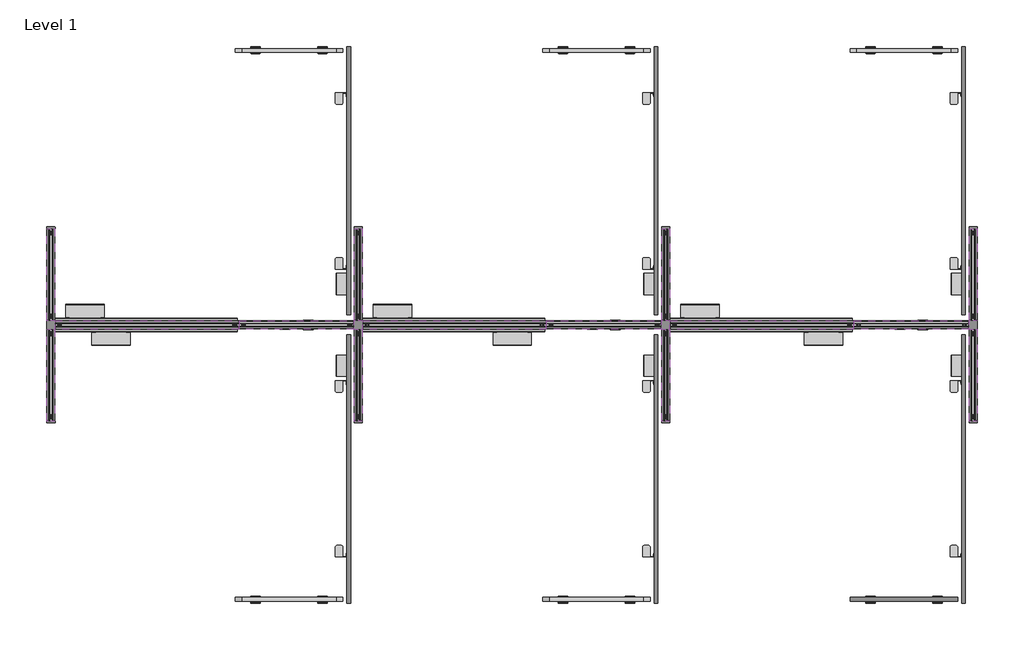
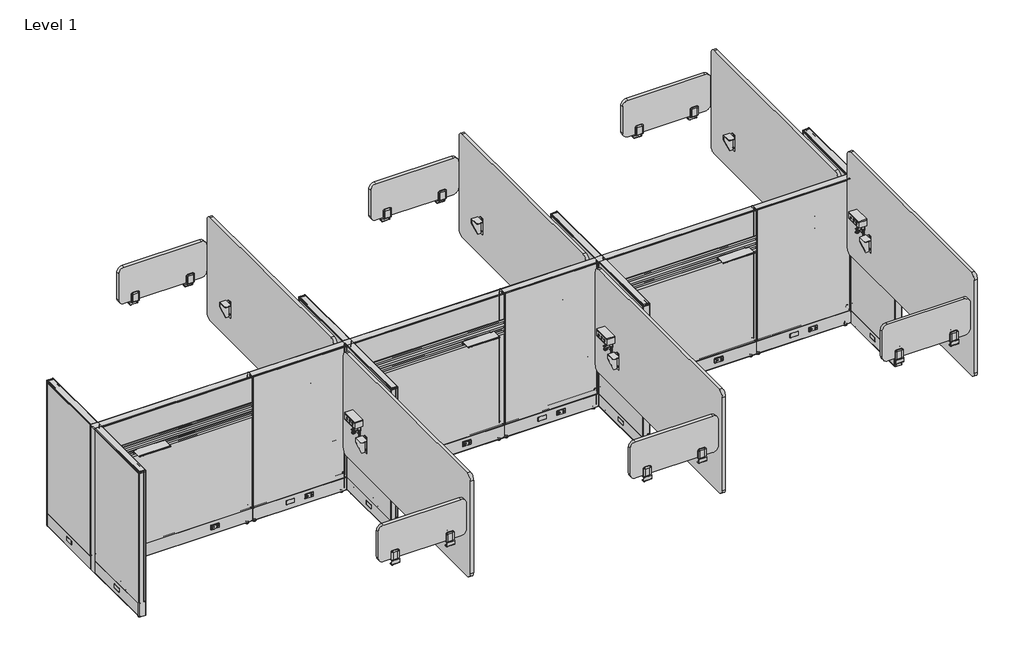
# One storey, incomplete: 82 furniture elements.
"""IFC4 building model written with IfcOpenShell, lengths in millimetres."""

from ifc_helpers import new_model, si_unit, origin, place, context, project, spatial, transform, mapped, element, save
from components import furniture_2e87ed6a, furniture_91dbd727, furniture_34fdd63b, furniture_ea1fc38d, furniture_3052da3d, furniture_b311e014, furniture_87b25547, furniture_98e4637c, furniture_94d4257f, furniture_e1f2ad61, furniture_f681380f, furniture_bea5105c, furniture_b77347cf, furniture_06a7f967, furniture_a22443c0, furniture_8bf96b06, furniture_95dbc46c, furniture_5fd61c0f, furniture_296ab29a, furniture_a4b0deac, furniture_41d6ddbd, furniture_5a4e5a92, furniture_285fecfc, circuit_1_60441ec7, circuit_1_12633536, hon_universal_screens_side_mount_13h_fabric_b37ea31b, hon_universal_screens_side_mount_13h_fabric_62fbe6fb, hon_workwall_accessories_small_shelf_hon_workwall_bf0bc41e, hon_workwall_accessories_small_shelf_hon_workwall_5849d4b8

model = new_model("IFC4")

# Units and contexts
model_context = context("Model", 3, world=origin())
ifc_project = project(units=[si_unit("LENGTHUNIT", "METRE", prefix="MILLI")], contexts=[model_context])

# Site, building, storey
site = spatial("IfcSite", under=ifc_project)
building = spatial("IfcBuilding", under=site)
storey = spatial("IfcBuildingStorey", under=building, Name="Level 1", Elevation=0.0)

# Furniture
placement = place(None, origin())
furniture_shape = furniture_2e87ed6a(model_context)
furniture_2_shape = furniture_91dbd727(model_context)
element("IfcFurniture", 1, ObjectType="HON - Voi - Dean Power Module Clamp : Dean Power Module Clamp", at=placement, inside=storey, context=model_context, shape_type="MappedRepresentation", body=[
    mapped(furniture_shape, transform((-1312.6176197, -276.8890381, 0.0), x_axis=(0.0, -1.0, 0.0), y_axis=(1.0, 0.0, 0.0), z_axis=(0.0, 0.0, 1.0))),
    mapped(furniture_2_shape, transform((-1312.6176197, -276.8890381, 0.0), x_axis=(0.0, -1.0, 0.0), y_axis=(1.0, 0.0, 0.0), z_axis=(0.0, 0.0, 1.0))),
])
element("IfcFurniture", 2, ObjectType="HON - Voi - Dean Power Module Clamp : Dean Power Module Clamp", at=placement, inside=storey, context=model_context, shape_type="MappedRepresentation", body=[
    mapped(furniture_shape, transform((725.7323803, -276.8890381, 0.0), x_axis=(0.0, -1.0, 0.0), y_axis=(1.0, 0.0, 0.0), z_axis=(0.0, 0.0, 1.0))),
    mapped(furniture_2_shape, transform((725.7323803, -276.8890381, 0.0), x_axis=(0.0, -1.0, 0.0), y_axis=(1.0, 0.0, 0.0), z_axis=(0.0, 0.0, 1.0))),
])
element("IfcFurniture", 3, ObjectType="HON - Voi - Dean Power Module Clamp : Dean Power Module Clamp", at=placement, inside=storey, context=model_context, shape_type="MappedRepresentation", body=[
    mapped(furniture_shape, transform((2764.0823803, -276.8890381, 288.8706443), x_axis=(0.0, -1.0, 0.0), y_axis=(1.0, 0.0, 0.0), z_axis=(0.0, 0.0, 1.0))),
    mapped(furniture_2_shape, transform((2764.0823803, -276.8890381, 288.8706443), x_axis=(0.0, -1.0, 0.0), y_axis=(1.0, 0.0, 0.0), z_axis=(0.0, 0.0, 1.0))),
])
furniture_3_shape = furniture_34fdd63b(model_context)
element("IfcFurniture", 4, ObjectType="HON - Universal Screens - A B - 34H - Fabric : 34\"H x 70\"W", at=placement, inside=storey, context=model_context, shape_type="MappedRepresentation", body=[
    mapped(furniture_3_shape, transform((-1333.6519947, -71.3031581, 0.0), x_axis=(0.0, -1.0, 0.0), y_axis=(1.0, 0.0, 0.0), z_axis=(0.0, 0.0, 1.0))),
])
element("IfcFurniture", 5, ObjectType="HON - Universal Screens - A B - 34H - Fabric : 34\"H x 70\"W", at=placement, inside=storey, context=model_context, shape_type="MappedRepresentation", body=[
    mapped(furniture_3_shape, transform((704.6980053, -71.3031581, 0.0), x_axis=(0.0, -1.0, 0.0), y_axis=(1.0, 0.0, 0.0), z_axis=(0.0, 0.0, 1.0))),
])
element("IfcFurniture", 6, ObjectType="HON - Universal Screens - A B - 34H - Fabric : 34\"H x 70\"W", at=placement, inside=storey, context=model_context, shape_type="MappedRepresentation", body=[
    mapped(furniture_3_shape, transform((2743.0480053, -71.3031581, 288.8706443), x_axis=(0.0, -1.0, 0.0), y_axis=(1.0, 0.0, 0.0), z_axis=(0.0, 0.0, 1.0))),
])
furniture_4_shape = furniture_ea1fc38d(model_context)
furniture_5_shape = furniture_3052da3d(model_context)
element("IfcFurniture", 7, ObjectType="HON - Voi - Dean Power Module Clamp : Dean Power Module Clamp", at=placement, inside=storey, context=model_context, shape_type="MappedRepresentation", body=[
    mapped(furniture_4_shape, transform((-1312.6176197, 264.9827881, 3.175), x_axis=(0.0, 1.0, 0.0), y_axis=(-1.0, 0.0, 0.0), z_axis=(0.0, 0.0, 1.0))),
    mapped(furniture_5_shape, transform((-1312.6176197, 264.9827881, 3.175), x_axis=(0.0, 1.0, 0.0), y_axis=(-1.0, 0.0, 0.0), z_axis=(0.0, 0.0, 1.0))),
])
element("IfcFurniture", 8, ObjectType="HON - Voi - Dean Power Module Clamp : Dean Power Module Clamp", at=placement, inside=storey, context=model_context, shape_type="MappedRepresentation", body=[
    mapped(furniture_4_shape, transform((725.7323803, 264.9827881, 3.175), x_axis=(0.0, 1.0, 0.0), y_axis=(-1.0, 0.0, 0.0), z_axis=(0.0, 0.0, 1.0))),
    mapped(furniture_5_shape, transform((725.7323803, 264.9827881, 3.175), x_axis=(0.0, 1.0, 0.0), y_axis=(-1.0, 0.0, 0.0), z_axis=(0.0, 0.0, 1.0))),
])
element("IfcFurniture", 9, ObjectType="HON - Voi - Dean Power Module Clamp : Dean Power Module Clamp", at=placement, inside=storey, context=model_context, shape_type="MappedRepresentation", body=[
    mapped(furniture_4_shape, transform((2764.0823803, 264.9827881, 3.175), x_axis=(0.0, 1.0, 0.0), y_axis=(-1.0, 0.0, 0.0), z_axis=(0.0, 0.0, 1.0))),
    mapped(furniture_5_shape, transform((2764.0823803, 264.9827881, 3.175), x_axis=(0.0, 1.0, 0.0), y_axis=(-1.0, 0.0, 0.0), z_axis=(0.0, 0.0, 1.0))),
])
furniture_6_shape = furniture_b311e014(model_context)
element("IfcFurniture", 10, ObjectType="HON - Universal Screens - A B - 34H - Fabric : 34\"H x 70\"W", at=placement, inside=storey, context=model_context, shape_type="MappedRepresentation", body=[
    mapped(furniture_6_shape, transform((-1333.6519947, 59.3969081, 0.0), x_axis=(0.0, 1.0, 0.0), y_axis=(-1.0, 0.0, 0.0), z_axis=(0.0, 0.0, 1.0))),
])
element("IfcFurniture", 11, ObjectType="HON - Universal Screens - A B - 34H - Fabric : 34\"H x 70\"W", at=placement, inside=storey, context=model_context, shape_type="MappedRepresentation", body=[
    mapped(furniture_6_shape, transform((704.6980053, 59.3969081, 0.0), x_axis=(0.0, 1.0, 0.0), y_axis=(-1.0, 0.0, 0.0), z_axis=(0.0, 0.0, 1.0))),
])
element("IfcFurniture", 12, ObjectType="HON - Universal Screens - A B - 34H - Fabric : 34\"H x 70\"W", at=placement, inside=storey, context=model_context, shape_type="MappedRepresentation", body=[
    mapped(furniture_6_shape, transform((2743.0480053, 59.3969081, 0.0), x_axis=(0.0, 1.0, 0.0), y_axis=(-1.0, 0.0, 0.0), z_axis=(0.0, 0.0, 1.0))),
])
furniture_7_shape = furniture_87b25547(model_context)
furniture_8_shape = furniture_98e4637c(model_context)
element("IfcFurniture", 13, ObjectType="HON - Accelerate - Panel - Tackable Acoustical - 50H : 24\"W", at=placement, inside=storey, context=model_context, shape_type="MappedRepresentation", body=[
    mapped(furniture_7_shape, transform((-3243.4575155, -644.0131022, 0.0), x_axis=(0.0, 1.0, 0.0), y_axis=(-1.0, 0.0, 0.0), z_axis=(0.0, 0.0, 1.0))),
    mapped(furniture_8_shape, transform((-3243.4575155, -644.0131022, 0.0), x_axis=(0.0, 1.0, 0.0), y_axis=(-1.0, 0.0, 0.0), z_axis=(0.0, 0.0, 1.0))),
])
element("IfcFurniture", 14, ObjectType="HON - Accelerate - Panel - Tackable Acoustical - 50H : 24\"W", at=placement, inside=storey, context=model_context, shape_type="MappedRepresentation", body=[
    mapped(furniture_7_shape, transform((-1204.8622343, -644.1030252, 0.0), x_axis=(0.0, 1.0, 0.0), y_axis=(-1.0, 0.0, 0.0), z_axis=(0.0, 0.0, 1.0))),
    mapped(furniture_8_shape, transform((-1204.8622343, -644.1030252, 0.0), x_axis=(0.0, 1.0, 0.0), y_axis=(-1.0, 0.0, 0.0), z_axis=(0.0, 0.0, 1.0))),
])
element("IfcFurniture", 15, ObjectType="HON - Accelerate - Panel - Tackable Acoustical - 50H : 24\"W", at=placement, inside=storey, context=model_context, shape_type="MappedRepresentation", body=[
    mapped(furniture_7_shape, transform((833.4877657, -644.1030252, 0.0), x_axis=(0.0, 1.0, 0.0), y_axis=(-1.0, 0.0, 0.0), z_axis=(0.0, 0.0, 1.0))),
    mapped(furniture_8_shape, transform((833.4877657, -644.1030252, 0.0), x_axis=(0.0, 1.0, 0.0), y_axis=(-1.0, 0.0, 0.0), z_axis=(0.0, 0.0, 1.0))),
])
element("IfcFurniture", 16, ObjectType="HON - Accelerate - Panel - Tackable Acoustical - 50H : 24\"W", at=placement, inside=storey, context=model_context, shape_type="MappedRepresentation", body=[
    mapped(furniture_7_shape, transform((2871.8377657, -644.1030252, 0.0), x_axis=(0.0, 1.0, 0.0), y_axis=(-1.0, 0.0, 0.0), z_axis=(0.0, 0.0, 1.0))),
    mapped(furniture_8_shape, transform((2871.8377657, -644.1030252, 0.0), x_axis=(0.0, 1.0, 0.0), y_axis=(-1.0, 0.0, 0.0), z_axis=(0.0, 0.0, 1.0))),
])
furniture_9_shape = furniture_94d4257f(model_context)
element("IfcFurniture", 17, ObjectType="HON - Accelerate - Top Cap : 24\"W", at=placement, inside=storey, context=model_context, shape_type="MappedRepresentation", body=[
    mapped(furniture_9_shape, transform((-3243.4575155, -339.2131022, 1247.2841202), x_axis=(0.0, 1.0, 0.0), y_axis=(-1.0, 0.0, 0.0), z_axis=(0.0, 0.0, 1.0))),
])
element("IfcFurniture", 18, ObjectType="HON - Accelerate - Top Cap : 24\"W", at=placement, inside=storey, context=model_context, shape_type="MappedRepresentation", body=[
    mapped(furniture_9_shape, transform((-1204.8622343, -339.3030252, 1247.2841202), x_axis=(0.0, 1.0, 0.0), y_axis=(-1.0, 0.0, 0.0), z_axis=(0.0, 0.0, 1.0))),
])
element("IfcFurniture", 19, ObjectType="HON - Accelerate - Top Cap : 24\"W", at=placement, inside=storey, context=model_context, shape_type="MappedRepresentation", body=[
    mapped(furniture_9_shape, transform((833.4877657, -339.3030252, 1247.2841202), x_axis=(0.0, 1.0, 0.0), y_axis=(-1.0, 0.0, 0.0), z_axis=(0.0, 0.0, 1.0))),
])
element("IfcFurniture", 20, ObjectType="HON - Accelerate - Top Cap : 24\"W", at=placement, inside=storey, context=model_context, shape_type="MappedRepresentation", body=[
    mapped(furniture_9_shape, transform((2871.8377657, -339.3030252, 1247.2841202), x_axis=(0.0, 1.0, 0.0), y_axis=(-1.0, 0.0, 0.0), z_axis=(0.0, 0.0, 1.0))),
])
furniture_10_shape = furniture_e1f2ad61(model_context)
furniture_11_shape = furniture_f681380f(model_context)
element("IfcFurniture", 21, ObjectType="HON - Accelerate - Panel - Tackable Acoustical - 50H : 24\"W", at=placement, inside=storey, context=model_context, shape_type="MappedRepresentation", body=[
    mapped(furniture_10_shape, transform((-3243.4575155, 632.1068522, 0.0), x_axis=(0.0, -1.0, 0.0), y_axis=(1.0, 0.0, 0.0), z_axis=(0.0, 0.0, 1.0))),
    mapped(furniture_11_shape, transform((-3243.4575155, 632.1068522, 0.0), x_axis=(0.0, -1.0, 0.0), y_axis=(1.0, 0.0, 0.0), z_axis=(0.0, 0.0, 1.0))),
])
element("IfcFurniture", 22, ObjectType="HON - Accelerate - Panel - Tackable Acoustical - 50H : 24\"W", at=placement, inside=storey, context=model_context, shape_type="MappedRepresentation", body=[
    mapped(furniture_10_shape, transform((-1204.8622343, 632.1967752, 0.0), x_axis=(0.0, -1.0, 0.0), y_axis=(1.0, 0.0, 0.0), z_axis=(0.0, 0.0, 1.0))),
    mapped(furniture_11_shape, transform((-1204.8622343, 632.1967752, 0.0), x_axis=(0.0, -1.0, 0.0), y_axis=(1.0, 0.0, 0.0), z_axis=(0.0, 0.0, 1.0))),
])
element("IfcFurniture", 23, ObjectType="HON - Accelerate - Panel - Tackable Acoustical - 50H : 24\"W", at=placement, inside=storey, context=model_context, shape_type="MappedRepresentation", body=[
    mapped(furniture_10_shape, transform((833.4877657, 632.1967752, 0.0), x_axis=(0.0, -1.0, 0.0), y_axis=(1.0, 0.0, 0.0), z_axis=(0.0, 0.0, 1.0))),
    mapped(furniture_11_shape, transform((833.4877657, 632.1967752, 0.0), x_axis=(0.0, -1.0, 0.0), y_axis=(1.0, 0.0, 0.0), z_axis=(0.0, 0.0, 1.0))),
])
element("IfcFurniture", 24, ObjectType="HON - Accelerate - Panel - Tackable Acoustical - 50H : 24\"W", at=placement, inside=storey, context=model_context, shape_type="MappedRepresentation", body=[
    mapped(furniture_10_shape, transform((2871.8377657, 632.1967752, 0.0), x_axis=(0.0, -1.0, 0.0), y_axis=(1.0, 0.0, 0.0), z_axis=(0.0, 0.0, 1.0))),
    mapped(furniture_11_shape, transform((2871.8377657, 632.1967752, 0.0), x_axis=(0.0, -1.0, 0.0), y_axis=(1.0, 0.0, 0.0), z_axis=(0.0, 0.0, 1.0))),
])
furniture_12_shape = furniture_bea5105c(model_context)
element("IfcFurniture", 25, ObjectType="HON - Accelerate - Top Cap : 24\"W", at=placement, inside=storey, context=model_context, shape_type="MappedRepresentation", body=[
    mapped(furniture_12_shape, transform((-3243.4575155, 327.3068522, 1247.2841202), x_axis=(0.0, -1.0, 0.0), y_axis=(1.0, 0.0, 0.0), z_axis=(0.0, 0.0, 1.0))),
])
element("IfcFurniture", 26, ObjectType="HON - Accelerate - Top Cap : 24\"W", at=placement, inside=storey, context=model_context, shape_type="MappedRepresentation", body=[
    mapped(furniture_12_shape, transform((-1204.8622343, 327.3967752, 1247.2841202), x_axis=(0.0, -1.0, 0.0), y_axis=(1.0, 0.0, 0.0), z_axis=(0.0, 0.0, 1.0))),
])
element("IfcFurniture", 27, ObjectType="HON - Accelerate - Top Cap : 24\"W", at=placement, inside=storey, context=model_context, shape_type="MappedRepresentation", body=[
    mapped(furniture_12_shape, transform((833.4877657, 327.3967752, 1247.2841202), x_axis=(0.0, -1.0, 0.0), y_axis=(1.0, 0.0, 0.0), z_axis=(0.0, 0.0, 1.0))),
])
element("IfcFurniture", 28, ObjectType="HON - Accelerate - Top Cap : 24\"W", at=placement, inside=storey, context=model_context, shape_type="MappedRepresentation", body=[
    mapped(furniture_12_shape, transform((2871.8377657, 327.3967752, 1247.2841202), x_axis=(0.0, -1.0, 0.0), y_axis=(1.0, 0.0, 0.0), z_axis=(0.0, 0.0, 1.0))),
])
furniture_13_shape = furniture_b77347cf(model_context)
element("IfcFurniture", 29, ObjectType="HON - Accelerate - Panel - Tackable Acoustical - 50H : 30\"W", at=placement, inside=storey, context=model_context, shape_type="MappedRepresentation", body=[
    mapped(furniture_13_shape, transform((-2023.2444934, -34.7109478, 0.0), x_axis=(1.0, 0.0, 0.0), y_axis=(0.0, 1.0, 0.0), z_axis=(0.0, 0.0, 1.0))),
    mapped(furniture_8_shape, transform((-2023.2444934, -34.7109478, 0.0), x_axis=(1.0, 0.0, 0.0), y_axis=(0.0, 1.0, 0.0), z_axis=(0.0, 0.0, 1.0))),
])
element("IfcFurniture", 30, ObjectType="HON - Accelerate - Panel - Tackable Acoustical - 50H : 30\"W", at=placement, inside=storey, context=model_context, shape_type="MappedRepresentation", body=[
    mapped(furniture_13_shape, transform((15.1055066, -34.7109478, 0.0), x_axis=(1.0, 0.0, 0.0), y_axis=(0.0, 1.0, 0.0), z_axis=(0.0, 0.0, 1.0))),
    mapped(furniture_8_shape, transform((15.1055066, -34.7109478, 0.0), x_axis=(1.0, 0.0, 0.0), y_axis=(0.0, 1.0, 0.0), z_axis=(0.0, 0.0, 1.0))),
])
element("IfcFurniture", 31, ObjectType="HON - Accelerate - Panel - Tackable Acoustical - 50H : 30\"W", at=placement, inside=storey, context=model_context, shape_type="MappedRepresentation", body=[
    mapped(furniture_13_shape, transform((2053.4555066, -34.7109478, 0.0), x_axis=(1.0, 0.0, 0.0), y_axis=(0.0, 1.0, 0.0), z_axis=(0.0, 0.0, 1.0))),
    mapped(furniture_8_shape, transform((2053.4555066, -34.7109478, 0.0), x_axis=(1.0, 0.0, 0.0), y_axis=(0.0, 1.0, 0.0), z_axis=(0.0, 0.0, 1.0))),
])
furniture_14_shape = furniture_06a7f967(model_context)
element("IfcFurniture", 32, ObjectType="HON - Accelerate - Top Cap : 30\"W", at=placement, inside=storey, context=model_context, shape_type="MappedRepresentation", body=[
    mapped(furniture_14_shape, transform((-1643.130314, -34.7109478, 1247.2841202), x_axis=(1.0, 0.0, 0.0), y_axis=(0.0, 1.0, 0.0), z_axis=(0.0, 0.0, 1.0))),
])
element("IfcFurniture", 33, ObjectType="HON - Accelerate - Top Cap : 30\"W", at=placement, inside=storey, context=model_context, shape_type="MappedRepresentation", body=[
    mapped(furniture_14_shape, transform((395.219686, -34.7109478, 1247.2841202), x_axis=(1.0, 0.0, 0.0), y_axis=(0.0, 1.0, 0.0), z_axis=(0.0, 0.0, 1.0))),
])
element("IfcFurniture", 34, ObjectType="HON - Accelerate - Top Cap : 30\"W", at=placement, inside=storey, context=model_context, shape_type="MappedRepresentation", body=[
    mapped(furniture_14_shape, transform((2433.569686, -34.7109478, 1247.2841202), x_axis=(1.0, 0.0, 0.0), y_axis=(0.0, 1.0, 0.0), z_axis=(0.0, 0.0, 1.0))),
])
furniture_15_shape = furniture_a22443c0(model_context)
element("IfcFurniture", 35, ObjectType="HON - Abound - Systems Paper Management Support Bars : 48\" W", at=placement, inside=storey, context=model_context, shape_type="MappedRepresentation", body=[
    mapped(furniture_15_shape, transform((-2638.5280823, -34.6888709, -25.4), x_axis=(1.0, 0.0, 0.0), y_axis=(0.0, 1.0, 0.0), z_axis=(0.0, 0.0, 1.0))),
])
element("IfcFurniture", 36, ObjectType="HON - Abound - Systems Paper Management Support Bars : 48\" W", at=placement, inside=storey, context=model_context, shape_type="MappedRepresentation", body=[
    mapped(furniture_15_shape, transform((-600.1780823, -34.6888709, -25.4), x_axis=(1.0, 0.0, 0.0), y_axis=(0.0, 1.0, 0.0), z_axis=(0.0, 0.0, 1.0))),
])
element("IfcFurniture", 37, ObjectType="HON - Abound - Systems Paper Management Support Bars : 48\" W", at=placement, inside=storey, context=model_context, shape_type="MappedRepresentation", body=[
    mapped(furniture_15_shape, transform((1438.1719177, -34.6888709, -25.4), x_axis=(1.0, 0.0, 0.0), y_axis=(0.0, 1.0, 0.0), z_axis=(0.0, 0.0, 1.0))),
])
furniture_16_shape = furniture_8bf96b06(model_context)
element("IfcFurniture", 38, ObjectType="HON - Abound - Systems Paper Management Support Bars : 48\" W", at=placement, inside=storey, context=model_context, shape_type="MappedRepresentation", body=[
    mapped(furniture_16_shape, transform((-2638.5280823, 22.7826209, -25.4), x_axis=(1.0, 0.0, 0.0), y_axis=(0.0, 1.0, 0.0), z_axis=(0.0, 0.0, 1.0))),
])
element("IfcFurniture", 39, ObjectType="HON - Abound - Systems Paper Management Support Bars : 48\" W", at=placement, inside=storey, context=model_context, shape_type="MappedRepresentation", body=[
    mapped(furniture_16_shape, transform((-600.1780823, 22.7826209, -25.4), x_axis=(1.0, 0.0, 0.0), y_axis=(0.0, 1.0, 0.0), z_axis=(0.0, 0.0, 1.0))),
])
element("IfcFurniture", 40, ObjectType="HON - Abound - Systems Paper Management Support Bars : 48\" W", at=placement, inside=storey, context=model_context, shape_type="MappedRepresentation", body=[
    mapped(furniture_16_shape, transform((1438.1719177, 22.7826209, -25.4), x_axis=(1.0, 0.0, 0.0), y_axis=(0.0, 1.0, 0.0), z_axis=(0.0, 0.0, 1.0))),
])
furniture_17_shape = furniture_95dbc46c(model_context)
element("IfcFurniture", 41, ObjectType="HON - Accelerate - Panel - Tackable Acoustical - 50H : 48\"W", at=placement, inside=storey, context=model_context, shape_type="MappedRepresentation", body=[
    mapped(furniture_17_shape, transform((-3243.4575155, -34.6285732, 0.0), x_axis=(1.0, 0.0, 0.0), y_axis=(0.0, 1.0, 0.0), z_axis=(0.0, 0.0, 1.0))),
    mapped(furniture_8_shape, transform((-3243.4575155, -34.6285732, 0.0), x_axis=(1.0, 0.0, 0.0), y_axis=(0.0, 1.0, 0.0), z_axis=(0.0, 0.0, 1.0))),
])
element("IfcFurniture", 42, ObjectType="HON - Accelerate - Panel - Tackable Acoustical - 50H : 48\"W", at=placement, inside=storey, context=model_context, shape_type="MappedRepresentation", body=[
    mapped(furniture_17_shape, transform((-1205.1075155, -34.6285732, 0.0), x_axis=(1.0, 0.0, 0.0), y_axis=(0.0, 1.0, 0.0), z_axis=(0.0, 0.0, 1.0))),
    mapped(furniture_8_shape, transform((-1205.1075155, -34.6285732, 0.0), x_axis=(1.0, 0.0, 0.0), y_axis=(0.0, 1.0, 0.0), z_axis=(0.0, 0.0, 1.0))),
])
element("IfcFurniture", 43, ObjectType="HON - Accelerate - Panel - Tackable Acoustical - 50H : 48\"W", at=placement, inside=storey, context=model_context, shape_type="MappedRepresentation", body=[
    mapped(furniture_17_shape, transform((833.2424845, -34.6285732, 0.0), x_axis=(1.0, 0.0, 0.0), y_axis=(0.0, 1.0, 0.0), z_axis=(0.0, 0.0, 1.0))),
    mapped(furniture_8_shape, transform((833.2424845, -34.6285732, 0.0), x_axis=(1.0, 0.0, 0.0), y_axis=(0.0, 1.0, 0.0), z_axis=(0.0, 0.0, 1.0))),
])
furniture_18_shape = furniture_5fd61c0f(model_context)
element("IfcFurniture", 44, ObjectType="HON - Accelerate - Top Cap : 48\"W", at=placement, inside=storey, context=model_context, shape_type="MappedRepresentation", body=[
    mapped(furniture_18_shape, transform((-2633.8575155, -34.6285732, 1247.2841202), x_axis=(1.0, 0.0, 0.0), y_axis=(0.0, 1.0, 0.0), z_axis=(0.0, 0.0, 1.0))),
])
element("IfcFurniture", 45, ObjectType="HON - Accelerate - Top Cap : 48\"W", at=placement, inside=storey, context=model_context, shape_type="MappedRepresentation", body=[
    mapped(furniture_18_shape, transform((-595.5075155, -34.6285732, 1247.2841202), x_axis=(1.0, 0.0, 0.0), y_axis=(0.0, 1.0, 0.0), z_axis=(0.0, 0.0, 1.0))),
])
element("IfcFurniture", 46, ObjectType="HON - Accelerate - Top Cap : 48\"W", at=placement, inside=storey, context=model_context, shape_type="MappedRepresentation", body=[
    mapped(furniture_18_shape, transform((1442.8424845, -34.6285732, 1247.2841202), x_axis=(1.0, 0.0, 0.0), y_axis=(0.0, 1.0, 0.0), z_axis=(0.0, 0.0, 1.0))),
])
furniture_19_shape = furniture_296ab29a(model_context)
element("IfcFurniture", 47, ObjectType="HON - Accelerate - Connector - T Post : 50\"H", at=placement, inside=storey, context=model_context, shape_type="MappedRepresentation", body=[
    mapped(furniture_19_shape, transform((-3243.3416365, -34.6285732, 0.0), x_axis=(0.0, 1.0, 0.0), y_axis=(-1.0, 0.0, 0.0), z_axis=(0.0, 0.0, 1.0))),
])
furniture_20_shape = furniture_a4b0deac(model_context)
element("IfcFurniture", 48, ObjectType="HON - Accelerate - Connector - X Post : 50\"H", at=placement, inside=storey, context=model_context, shape_type="MappedRepresentation", body=[
    mapped(furniture_20_shape, transform((-1261.9838338, -34.7109478, 0.0), x_axis=(1.0, 0.0, 0.0), y_axis=(0.0, 1.0, 0.0), z_axis=(0.0, 0.0, 1.0))),
])
element("IfcFurniture", 49, ObjectType="HON - Accelerate - Connector - X Post : 50\"H", at=placement, inside=storey, context=model_context, shape_type="MappedRepresentation", body=[
    mapped(furniture_20_shape, transform((776.3661662, -34.7109478, 0.0), x_axis=(1.0, 0.0, 0.0), y_axis=(0.0, 1.0, 0.0), z_axis=(0.0, 0.0, 1.0))),
])
furniture_21_shape = furniture_41d6ddbd(model_context)
element("IfcFurniture", 50, ObjectType="HON - Accelerate - Connector - Finished End Cover : 50\"H", at=placement, inside=storey, context=model_context, shape_type="MappedRepresentation", body=[
    mapped(furniture_21_shape, transform((-3300.0606171, -644.5396759, 0.0), x_axis=(0.0, -1.0, 0.0), y_axis=(1.0, 0.0, 0.0), z_axis=(0.0, 0.0, 1.0))),
])
element("IfcFurniture", 51, ObjectType="HON - Accelerate - Connector - Finished End Cover : 50\"H", at=placement, inside=storey, context=model_context, shape_type="MappedRepresentation", body=[
    mapped(furniture_21_shape, transform((-1261.4834427, -644.7691004, 0.0), x_axis=(0.0, -1.0, 0.0), y_axis=(1.0, 0.0, 0.0), z_axis=(0.0, 0.0, 1.0))),
])
element("IfcFurniture", 52, ObjectType="HON - Accelerate - Connector - Finished End Cover : 50\"H", at=placement, inside=storey, context=model_context, shape_type="MappedRepresentation", body=[
    mapped(furniture_21_shape, transform((776.8665573, -644.7691004, 0.0), x_axis=(0.0, -1.0, 0.0), y_axis=(1.0, 0.0, 0.0), z_axis=(0.0, 0.0, 1.0))),
])
element("IfcFurniture", 53, ObjectType="HON - Accelerate - Connector - Finished End Cover : 50\"H", at=placement, inside=storey, context=model_context, shape_type="MappedRepresentation", body=[
    mapped(furniture_21_shape, transform((2815.2165573, -644.7691004, 0.0), x_axis=(0.0, -1.0, 0.0), y_axis=(1.0, 0.0, 0.0), z_axis=(0.0, 0.0, 1.0))),
])
furniture_22_shape = furniture_5a4e5a92(model_context)
element("IfcFurniture", 54, ObjectType="HON - Accelerate - Connector - Finished End Cover : 50\"H", at=placement, inside=storey, context=model_context, shape_type="MappedRepresentation", body=[
    mapped(furniture_22_shape, transform((-3300.0606171, 632.6334259, 0.0), x_axis=(0.0, 1.0, 0.0), y_axis=(-1.0, 0.0, 0.0), z_axis=(0.0, 0.0, 1.0))),
])
element("IfcFurniture", 55, ObjectType="HON - Accelerate - Connector - Finished End Cover : 50\"H", at=placement, inside=storey, context=model_context, shape_type="MappedRepresentation", body=[
    mapped(furniture_22_shape, transform((-1261.4834427, 632.8628504, 0.0), x_axis=(0.0, 1.0, 0.0), y_axis=(-1.0, 0.0, 0.0), z_axis=(0.0, 0.0, 1.0))),
])
element("IfcFurniture", 56, ObjectType="HON - Accelerate - Connector - Finished End Cover : 50\"H", at=placement, inside=storey, context=model_context, shape_type="MappedRepresentation", body=[
    mapped(furniture_22_shape, transform((776.8665573, 632.8628504, 0.0), x_axis=(0.0, 1.0, 0.0), y_axis=(-1.0, 0.0, 0.0), z_axis=(0.0, 0.0, 1.0))),
])
element("IfcFurniture", 57, ObjectType="HON - Accelerate - Connector - Finished End Cover : 50\"H", at=placement, inside=storey, context=model_context, shape_type="MappedRepresentation", body=[
    mapped(furniture_22_shape, transform((2815.2165573, 632.8628504, 0.0), x_axis=(0.0, 1.0, 0.0), y_axis=(-1.0, 0.0, 0.0), z_axis=(0.0, 0.0, 1.0))),
])
furniture_23_shape = furniture_285fecfc(model_context)
element("IfcFurniture", 58, ObjectType="HON - Accelerate - Connector - T Post : 50\"H", at=placement, inside=storey, context=model_context, shape_type="MappedRepresentation", body=[
    mapped(furniture_23_shape, transform((2814.7166365, -34.6285732, 0.0), x_axis=(0.0, 1.0, 0.0), y_axis=(-1.0, 0.0, 0.0), z_axis=(0.0, 0.0, 1.0))),
])
circuit_1_shape = circuit_1_60441ec7(model_context)
element("IfcFurniture", 59, ObjectType="HON - Systems - Accelerate Duplex Receptacles : Circuit 1", at=placement, inside=storey, context=model_context, shape_type="MappedRepresentation", body=[
    mapped(circuit_1_shape, transform((-2328.4823651, -6.8370058, -568.8542948), x_axis=(1.0, 0.0, 0.0), y_axis=(0.0, 1.0, 0.0), z_axis=(0.0, 0.0, 1.0))),
])
element("IfcFurniture", 60, ObjectType="HON - Systems - Accelerate Duplex Receptacles : Circuit 1", at=placement, inside=storey, context=model_context, shape_type="MappedRepresentation", body=[
    mapped(circuit_1_shape, transform((-1566.5912562, -6.35, -568.8542948), x_axis=(1.0, 0.0, 0.0), y_axis=(0.0, 1.0, 0.0), z_axis=(0.0, 0.0, 1.0))),
])
element("IfcFurniture", 61, ObjectType="HON - Systems - Accelerate Duplex Receptacles : Circuit 1", at=placement, inside=storey, context=model_context, shape_type="MappedRepresentation", body=[
    mapped(circuit_1_shape, transform((-290.1323651, -6.8370058, -568.8542948), x_axis=(1.0, 0.0, 0.0), y_axis=(0.0, 1.0, 0.0), z_axis=(0.0, 0.0, 1.0))),
])
element("IfcFurniture", 62, ObjectType="HON - Systems - Accelerate Duplex Receptacles : Circuit 1", at=placement, inside=storey, context=model_context, shape_type="MappedRepresentation", body=[
    mapped(circuit_1_shape, transform((471.7587438, -6.35, -568.8542948), x_axis=(1.0, 0.0, 0.0), y_axis=(0.0, 1.0, 0.0), z_axis=(0.0, 0.0, 1.0))),
])
element("IfcFurniture", 63, ObjectType="HON - Systems - Accelerate Duplex Receptacles : Circuit 1", at=placement, inside=storey, context=model_context, shape_type="MappedRepresentation", body=[
    mapped(circuit_1_shape, transform((1748.2176349, -6.8370058, -568.8542948), x_axis=(1.0, 0.0, 0.0), y_axis=(0.0, 1.0, 0.0), z_axis=(0.0, 0.0, 1.0))),
])
element("IfcFurniture", 64, ObjectType="HON - Systems - Accelerate Duplex Receptacles : Circuit 1", at=placement, inside=storey, context=model_context, shape_type="MappedRepresentation", body=[
    mapped(circuit_1_shape, transform((2510.1087438, -6.35, -568.8542948), x_axis=(1.0, 0.0, 0.0), y_axis=(0.0, 1.0, 0.0), z_axis=(0.0, 0.0, 1.0))),
])
circuit_1_2_shape = circuit_1_12633536(model_context)
element("IfcFurniture", 65, ObjectType="HON - Systems - Accelerate Duplex Receptacles : Circuit 1", at=placement, inside=storey, context=model_context, shape_type="MappedRepresentation", body=[
    mapped(circuit_1_2_shape, transform((-2328.4823651, -5.0692442, -568.8542948), x_axis=(1.0, 0.0, 0.0), y_axis=(0.0, 1.0, 0.0), z_axis=(0.0, 0.0, 1.0))),
])
element("IfcFurniture", 66, ObjectType="HON - Systems - Accelerate Duplex Receptacles : Circuit 1", at=placement, inside=storey, context=model_context, shape_type="MappedRepresentation", body=[
    mapped(circuit_1_2_shape, transform((-1566.5912562, -5.55625, -568.8542948), x_axis=(1.0, 0.0, 0.0), y_axis=(0.0, 1.0, 0.0), z_axis=(0.0, 0.0, 1.0))),
])
element("IfcFurniture", 67, ObjectType="HON - Systems - Accelerate Duplex Receptacles : Circuit 1", at=placement, inside=storey, context=model_context, shape_type="MappedRepresentation", body=[
    mapped(circuit_1_2_shape, transform((-290.1323651, -5.0692442, -568.8542948), x_axis=(1.0, 0.0, 0.0), y_axis=(0.0, 1.0, 0.0), z_axis=(0.0, 0.0, 1.0))),
])
element("IfcFurniture", 68, ObjectType="HON - Systems - Accelerate Duplex Receptacles : Circuit 1", at=placement, inside=storey, context=model_context, shape_type="MappedRepresentation", body=[
    mapped(circuit_1_2_shape, transform((471.7587438, -5.55625, -568.8542948), x_axis=(1.0, 0.0, 0.0), y_axis=(0.0, 1.0, 0.0), z_axis=(0.0, 0.0, 1.0))),
])
element("IfcFurniture", 69, ObjectType="HON - Systems - Accelerate Duplex Receptacles : Circuit 1", at=placement, inside=storey, context=model_context, shape_type="MappedRepresentation", body=[
    mapped(circuit_1_2_shape, transform((1748.2176349, -5.0692442, -568.8542948), x_axis=(1.0, 0.0, 0.0), y_axis=(0.0, 1.0, 0.0), z_axis=(0.0, 0.0, 1.0))),
])
element("IfcFurniture", 70, ObjectType="HON - Systems - Accelerate Duplex Receptacles : Circuit 1", at=placement, inside=storey, context=model_context, shape_type="MappedRepresentation", body=[
    mapped(circuit_1_2_shape, transform((2510.1087438, -5.55625, -568.8542948), x_axis=(1.0, 0.0, 0.0), y_axis=(0.0, 1.0, 0.0), z_axis=(0.0, 0.0, 1.0))),
])
hon_universal_screens_side_mount_13h_fabric_shape = hon_universal_screens_side_mount_13h_fabric_b37ea31b(model_context)
element("IfcFurniture", 71, ObjectType="HON - Universal Screens - Side Mount - 13H - Fabric : 13\"H x 28\"W", at=placement, inside=storey, context=model_context, shape_type="MappedRepresentation", body=[
    mapped(hon_universal_screens_side_mount_13h_fabric_shape, transform((-1336.7627598, -1848.2786086, 0.0), x_axis=(-1.0, 0.0, 0.0), y_axis=(0.0, -1.0, 0.0), z_axis=(0.0, 0.0, 1.0))),
])
element("IfcFurniture", 72, ObjectType="HON - Universal Screens - Side Mount - 13H - Fabric : 13\"H x 28\"W", at=placement, inside=storey, context=model_context, shape_type="MappedRepresentation", body=[
    mapped(hon_universal_screens_side_mount_13h_fabric_shape, transform((701.5872402, -1848.2786086, 0.0), x_axis=(-1.0, 0.0, 0.0), y_axis=(0.0, -1.0, 0.0), z_axis=(0.0, 0.0, 1.0))),
])
element("IfcFurniture", 73, ObjectType="HON - Universal Screens - Side Mount - 13H - Fabric : 13\"H x 28\"W", at=placement, inside=storey, context=model_context, shape_type="MappedRepresentation", body=[
    mapped(hon_universal_screens_side_mount_13h_fabric_shape, transform((2739.9372402, -1848.2786086, 288.8705975), x_axis=(-1.0, 0.0, 0.0), y_axis=(0.0, -1.0, 0.0), z_axis=(0.0, 0.0, 1.0))),
])
hon_universal_screens_side_mount_13h_fabric_2_shape = hon_universal_screens_side_mount_13h_fabric_62fbe6fb(model_context)
element("IfcFurniture", 74, ObjectType="HON - Universal Screens - Side Mount - 13H - Fabric : 13\"H x 28\"W", at=placement, inside=storey, context=model_context, shape_type="MappedRepresentation", body=[
    mapped(hon_universal_screens_side_mount_13h_fabric_2_shape, transform((-1336.7627598, 1836.3723586, 0.0), x_axis=(-1.0, 0.0, 0.0), y_axis=(0.0, -1.0, 0.0), z_axis=(0.0, 0.0, 1.0))),
])
element("IfcFurniture", 75, ObjectType="HON - Universal Screens - Side Mount - 13H - Fabric : 13\"H x 28\"W", at=placement, inside=storey, context=model_context, shape_type="MappedRepresentation", body=[
    mapped(hon_universal_screens_side_mount_13h_fabric_2_shape, transform((701.5872402, 1836.3723586, 0.0), x_axis=(-1.0, 0.0, 0.0), y_axis=(0.0, -1.0, 0.0), z_axis=(0.0, 0.0, 1.0))),
])
element("IfcFurniture", 76, ObjectType="HON - Universal Screens - Side Mount - 13H - Fabric : 13\"H x 28\"W", at=placement, inside=storey, context=model_context, shape_type="MappedRepresentation", body=[
    mapped(hon_universal_screens_side_mount_13h_fabric_2_shape, transform((2739.9372402, 1836.3723586, 0.0), x_axis=(-1.0, 0.0, 0.0), y_axis=(0.0, -1.0, 0.0), z_axis=(0.0, 0.0, 1.0))),
])
hon_workwall_accessories_small_shelf_hon_workwall_shape = hon_workwall_accessories_small_shelf_hon_workwall_bf0bc41e(model_context)
element("IfcFurniture", 77, ObjectType="HON - Workwall - Accessories - Small Shelf : HON - Workwall - Accessories - Small Shelf", at=placement, inside=storey, context=model_context, shape_type="MappedRepresentation", body=[
    mapped(hon_workwall_accessories_small_shelf_hon_workwall_shape, transform((-2879.4797047, -50.7271479, 954.6357244), x_axis=(1.0, 0.0, 0.0), y_axis=(0.0, 1.0, 0.0), z_axis=(0.0, 0.0, 1.0))),
])
element("IfcFurniture", 78, ObjectType="HON - Workwall - Accessories - Small Shelf : HON - Workwall - Accessories - Small Shelf", at=placement, inside=storey, context=model_context, shape_type="MappedRepresentation", body=[
    mapped(hon_workwall_accessories_small_shelf_hon_workwall_shape, transform((-218.8297047, -50.7271479, 954.6357244), x_axis=(1.0, 0.0, 0.0), y_axis=(0.0, 1.0, 0.0), z_axis=(0.0, 0.0, 1.0))),
])
element("IfcFurniture", 79, ObjectType="HON - Workwall - Accessories - Small Shelf : HON - Workwall - Accessories - Small Shelf", at=placement, inside=storey, context=model_context, shape_type="MappedRepresentation", body=[
    mapped(hon_workwall_accessories_small_shelf_hon_workwall_shape, transform((1844.9202953, -50.7271479, 954.6357244), x_axis=(1.0, 0.0, 0.0), y_axis=(0.0, 1.0, 0.0), z_axis=(0.0, 0.0, 1.0))),
])
hon_workwall_accessories_small_shelf_hon_workwall_2_shape = hon_workwall_accessories_small_shelf_hon_workwall_5849d4b8(model_context)
element("IfcFurniture", 80, ObjectType="HON - Workwall - Accessories - Small Shelf : HON - Workwall - Accessories - Small Shelf", at=placement, inside=storey, context=model_context, shape_type="MappedRepresentation", body=[
    mapped(hon_workwall_accessories_small_shelf_hon_workwall_2_shape, transform((-3050.9297047, 38.8208979, 954.6357244), x_axis=(1.0, 0.0, 0.0), y_axis=(0.0, 1.0, 0.0), z_axis=(0.0, 0.0, 1.0))),
])
element("IfcFurniture", 81, ObjectType="HON - Workwall - Accessories - Small Shelf : HON - Workwall - Accessories - Small Shelf", at=placement, inside=storey, context=model_context, shape_type="MappedRepresentation", body=[
    mapped(hon_workwall_accessories_small_shelf_hon_workwall_2_shape, transform((-1012.5797047, 38.8208979, 954.6357244), x_axis=(1.0, 0.0, 0.0), y_axis=(0.0, 1.0, 0.0), z_axis=(0.0, 0.0, 1.0))),
])
element("IfcFurniture", 82, ObjectType="HON - Workwall - Accessories - Small Shelf : HON - Workwall - Accessories - Small Shelf", at=placement, inside=storey, context=model_context, shape_type="MappedRepresentation", body=[
    mapped(hon_workwall_accessories_small_shelf_hon_workwall_2_shape, transform((1025.7702953, 38.8208979, 954.6357244), x_axis=(1.0, 0.0, 0.0), y_axis=(0.0, 1.0, 0.0), z_axis=(0.0, 0.0, 1.0))),
])

save(model, "model.ifc")
